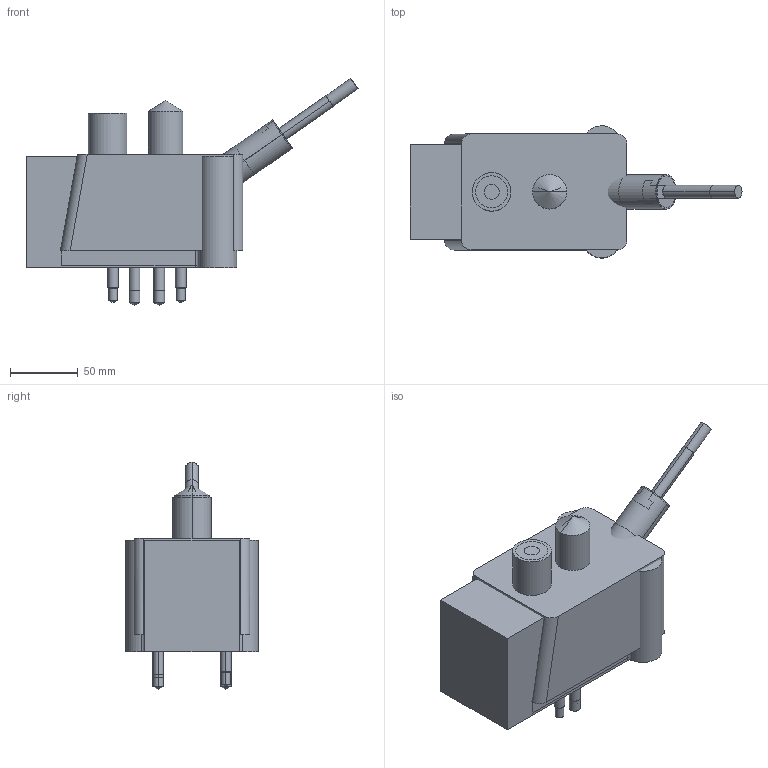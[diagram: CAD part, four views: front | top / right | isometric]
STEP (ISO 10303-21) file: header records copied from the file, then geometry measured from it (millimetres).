
FILE_DESCRIPTION((' '),'2;1');
FILE_NAME( 'EZ-35-P.stp', '2023-11-29T14:31:07', (' '), ('--- Datakit www.datakit.com---'), ' Datakit CrossCadWare V2020.4 Oct 21 2020', 'Export from SolidLink (Hexagon Production Software)', ' ');
FILE_SCHEMA(('AP242_MANAGED_MODEL_BASED_3D_ENGINEERING_MIM_LF { 1 0 10303 442 1 1 4 }'));
Length unit declared in the file: millimetre
Products named in the file (124): Workplanes; 1700579486; 1679432820; 1700503135; 1700503241; 1679424239; 1679424240; 1679424241; 1679424242; 1679424243; 1679424262; 1679424269; 1679424271; 1679424272; 1679424273; 1679424274; 1700838267; 1700838369; 1701286970; 1701286971; 1701286972; 1701286973; 1701286974; 1701286975; 1701286976; 1701286977; 1701286978; 1701286979; 1701286980; 1701286981; 1701286982; 1701286983; 1701286984; 1701286985; 1701286986; 1701286987; 1701286988; 1701286989; 1701286990; 1701286991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
Bounding box: 245.48 x 97.7 x 167.95 mm (x, y, z)
Volume: 2512475.9 mm3; surface area: 227916.8 mm2
Topology: 16 solids, 17 shells, 369 faces, 1057 edges, 937 vertices
Faces by surface type: plane 142, cylinder 125, cone 86, torus 6, sphere 4, revolution 4, bspline 2
Entity records: 16642 total; most frequent: CARTESIAN_POINT 5331, DIRECTION 2311, ORIENTED_EDGE 1660, AXIS2_PLACEMENT_3D 916, EDGE_CURVE 836, VERTEX_POINT 531, VECTOR 475, LINE 475
